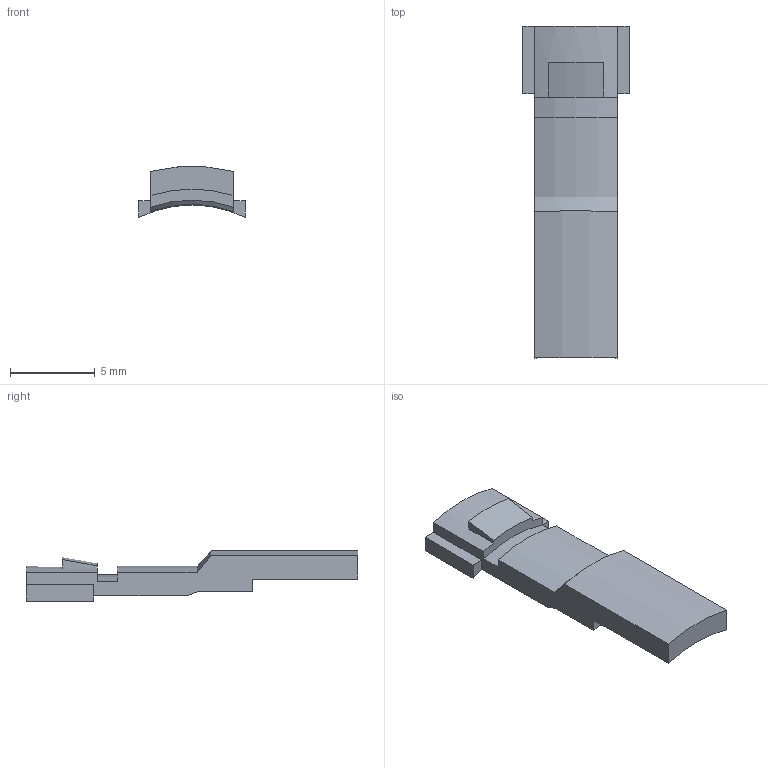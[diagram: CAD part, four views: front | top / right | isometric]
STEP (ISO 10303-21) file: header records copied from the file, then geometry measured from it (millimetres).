
FILE_DESCRIPTION( ( '' ), '1' );
FILE_NAME( '//expscmdclustefs.cadenas.external/client_exchange/iodir/jobs/output/wkb45454279_no0/STEP/216407_2_03.stp', '2012-05-30T15:51:06', ( '' ), ( '' ), ' ', ' ', ' ' );
FILE_SCHEMA( ( 'CONFIG_CONTROL_DESIGN' ) );
Length unit declared in the file: millimetre
Products named in the file (1): 1
Bounding box: 6.3 x 19.6 x 2.97 mm (x, y, z)
Volume: 143.1 mm3; surface area: 296.8 mm2
Topology: 1 solids, 1 shells, 30 faces, 84 edges, 56 vertices
Faces by surface type: plane 19, cylinder 8, cone 3
Entity records: 1012 total; most frequent: CARTESIAN_POINT 192, ORIENTED_EDGE 168, DIRECTION 158, EDGE_CURVE 84, LINE 58, VECTOR 58, VERTEX_POINT 56, AXIS2_PLACEMENT_3D 50
